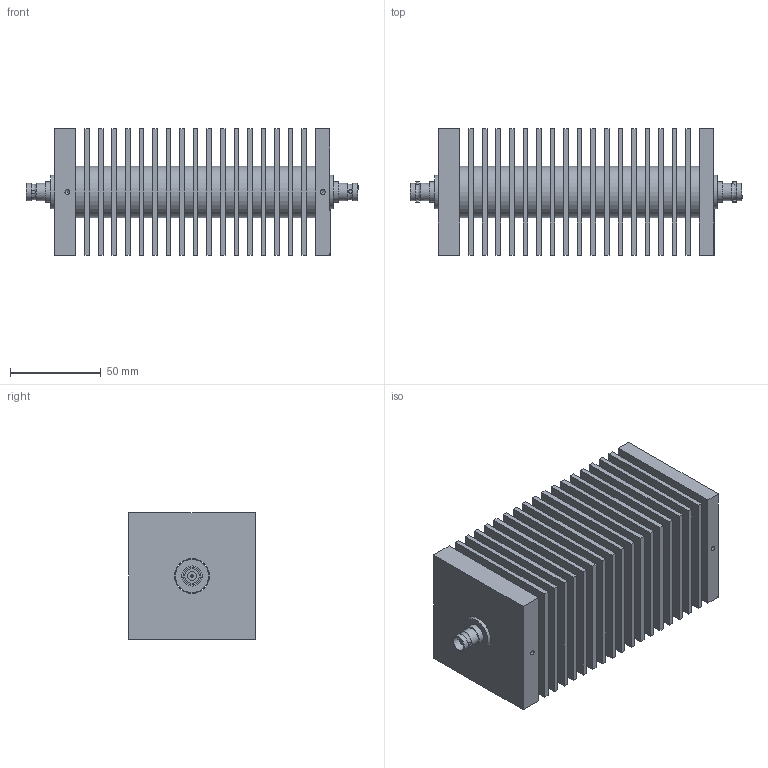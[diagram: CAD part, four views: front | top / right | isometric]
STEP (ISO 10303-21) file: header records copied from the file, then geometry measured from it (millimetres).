
FILE_DESCRIPTION(/* description */ (''),/* implementation_level */ '2;1');
FILE_NAME(/* name */ '100-SA-FFB_100W_ATTENUATOR',/* time_stamp */ '2017-03-23T09:27:25-04:00',/* author */ ('Tom Smith'),/* organization */ ('Bird'),/* preprocessor_version */ 'ST-DEVELOPER v16.7',/* originating_system */ 'DEX',/* authorisation */ $);
FILE_SCHEMA (('AUTOMOTIVE_DESIGN {1 0 10303 214 3 1 1}'));
Length unit declared in the file: inch
Products named in the file (1): 100-SA-FFB_100W_ATTENUATOR
Bounding box: 183.39 x 69.85 x 69.85 mm (x, y, z)
Volume: 324611.4 mm3; surface area: 199901.9 mm2
Topology: 3 solids, 3 shells, 241 faces, 517 edges, 340 vertices
Faces by surface type: plane 168, cylinder 53, bspline 14, cone 6
Full cylindrical faces by diameter (mm): 0.973 x2, 1.297 x2, 1.588 x4, 1.968 x4, 2.096 x2, 2.647 x2, 4.763 x2, 7.938 x2, 9.525 x4, 11.113 x2, 18.359 x2, 19.152 x1, 28.575 x18
Entity records: 9366 total; most frequent: CARTESIAN_POINT 2728, DIRECTION 958, ORIENTED_EDGE 884, EDGE_CURVE 442, FACE_BOUND 368, EDGE_LOOP 364, VERTEX_POINT 332, AXIS2_PLACEMENT_3D 322
